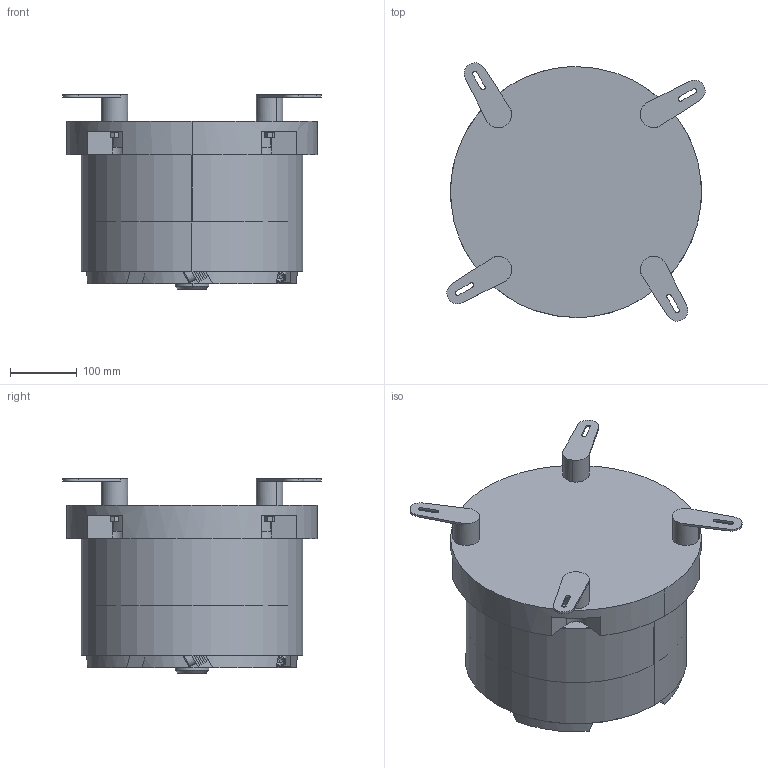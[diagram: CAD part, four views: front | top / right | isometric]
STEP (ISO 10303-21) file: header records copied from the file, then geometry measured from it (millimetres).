
FILE_DESCRIPTION(/* description */ (''),/* implementation_level */ '2;1');
FILE_NAME(/* name */ 'DA350 铁盖.stp',/* time_stamp */ '2025-07-17T20:36:11+08:00',/* author */ (''),/* organization */ (''),/* preprocessor_version */ 'ST-DEVELOPER v18.102',/* originating_system */ 'SIEMENS PLM Software NX2206.1700',/* authorisation */ '');
FILE_SCHEMA (('AP203_CONFIGURATION_CONTROLLED_3D_DESIGN_OF_MECHANICAL_PARTS_AND_ASSEMBLIES_MIM_LF { 1 0 10303 403 2 1 2}'));
Length unit declared in the file: millimetre
Products named in the file (1): DA350 铁盖 2023_step_Admi2804B924jknc
Bounding box: 388.2 x 388.2 x 292 mm (x, y, z)
Volume: 16347348.1 mm3; surface area: 1153686.8 mm2
Topology: 44 solids, 44 shells, 532 faces, 1294 edges, 851 vertices
Faces by surface type: plane 329, cylinder 170, cone 18, torus 15
Full cylindrical faces by diameter (mm): 8 x1, 11.63 x8
Entity records: 16315 total; most frequent: CARTESIAN_POINT 3215, DIRECTION 2659, ORIENTED_EDGE 2554, EDGE_CURVE 1277, AXIS2_PLACEMENT_3D 971, VERTEX_POINT 851, LINE 717, VECTOR 717
